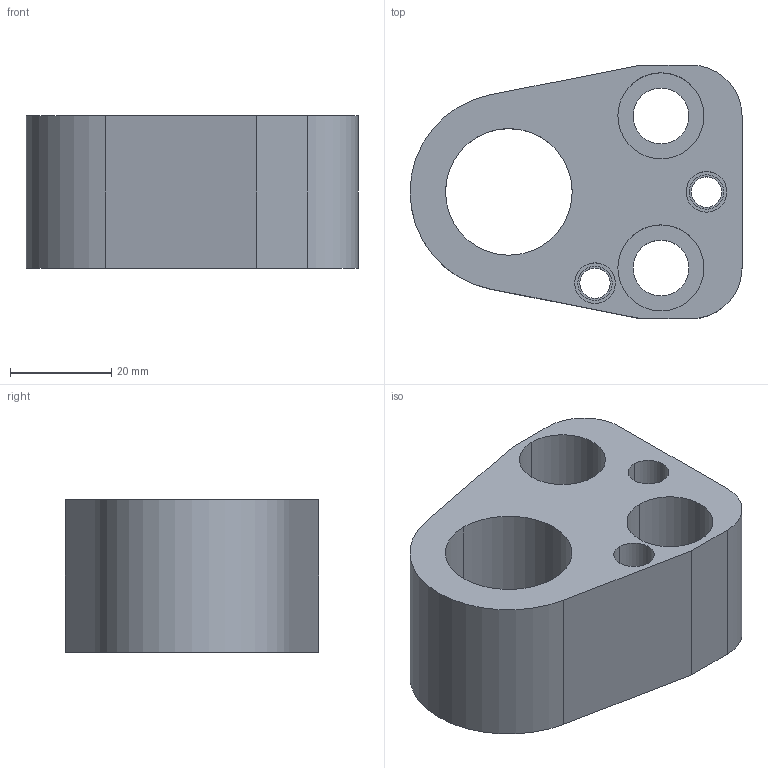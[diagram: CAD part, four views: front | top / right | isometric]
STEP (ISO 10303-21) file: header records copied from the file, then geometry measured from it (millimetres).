
FILE_DESCRIPTION(/* description */ (''),/* implementation_level */ '2;1');
FILE_NAME(/* name */ '3d_ap-an25_03188_r00.stp',/* time_stamp */ '2011-01-10T14:17:47+09:00',/* author */ ('MISUMI'),/* organization */ (''),/* preprocessor_version */ 'ST-DEVELOPER v11',/* originating_system */ 'UGS - NX 5.0',/* authorisation */ '');
FILE_SCHEMA (('CONFIG_CONTROL_DESIGN'));
Length unit declared in the file: millimetre
Products named in the file (1): 3d_ap-an25_03188_r00
Bounding box: 65.5 x 50 x 30 mm (x, y, z)
Volume: 53093.2 mm3; surface area: 16216.6 mm2
Topology: 1 solids, 1 shells, 43 faces, 100 edges, 66 vertices
Faces by surface type: cylinder 27, plane 14, cone 2
Entity records: 1360 total; most frequent: DIRECTION 244, CARTESIAN_POINT 210, ORIENTED_EDGE 200, EDGE_CURVE 100, AXIS2_PLACEMENT_3D 100, VERTEX_POINT 66, EDGE_LOOP 60, CIRCLE 56
